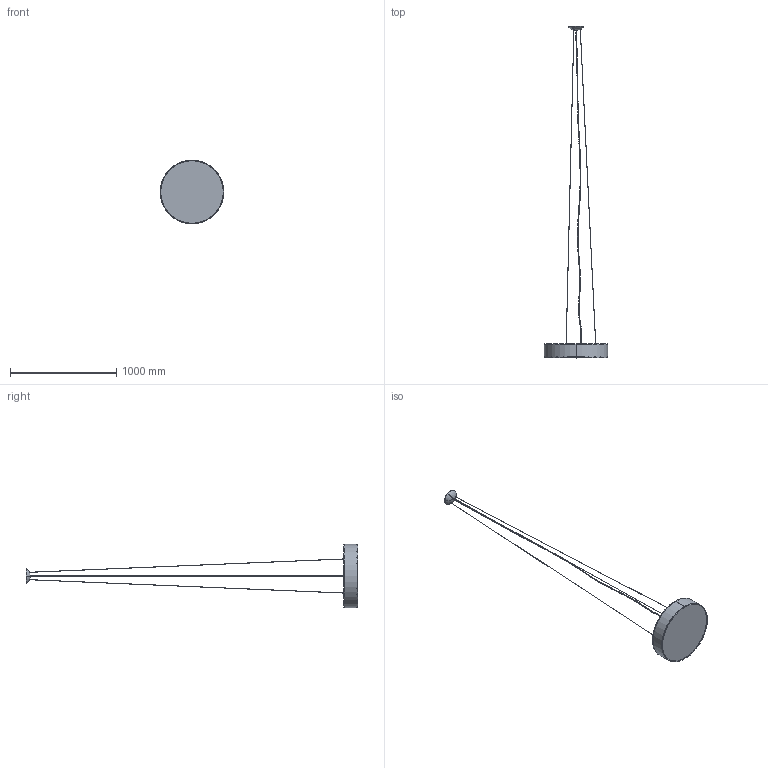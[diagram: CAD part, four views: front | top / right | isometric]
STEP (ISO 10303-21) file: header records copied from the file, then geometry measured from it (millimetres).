
FILE_DESCRIPTION (( 'STEP AP203' ), '1' );
FILE_NAME ('SPTES060COXXXXX-PER 3D.STEP', '2025-06-25T10:45:09', ( '' ), ( '' ), 'SwSTEP 2.0', 'SolidWorks 2024', '' );
FILE_SCHEMA (( 'CONFIG_CONTROL_DESIGN' ));
Length unit declared in the file: millimetre
Products named in the file (9): WSASS-000000001-28; TSPTESSYC60DWBC; WSCA01193000B2830B; MSPTESSYØ60-LED; SPTES060COXXXXX-PER 3D; CAVO ELETTRICO 3 POLI MV37T; WSCM2J0001-0028-00; PSPPLTESSY60H13COT; RIVESTIMENTO PARALUME Ø600
Assembly tree (10 placements, depth 4):
  SPTES060COXXXXX-PER 3D
    PSPPLTESSY60H13COT
      RIVESTIMENTO PARALUME Ø600
    MSPTESSYØ60-LED
      WSCA01193000B2830B  x3
      CAVO ELETTRICO 3 POLI MV37T
      WSASS-000000001-28
        WSCM2J0001-0028-00
    TSPTESSYC60DWBC
Bounding box: 602 x 3126.58 x 602 mm (x, y, z)
Volume: 556943.4 mm3; surface area: 1779913.9 mm2
Topology: 9 solids, 9 shells, 117 faces, 260 edges, 160 vertices
Faces by surface type: plane 42, torus 38, cylinder 29, cone 6, bspline 2
Entity records: 4786 total; most frequent: CARTESIAN_POINT 1396, DIRECTION 560, ORIENTED_EDGE 472, AXIS2_PLACEMENT_3D 241, EDGE_CURVE 236, VERTEX_POINT 144, CIRCLE 124, EDGE_LOOP 110
